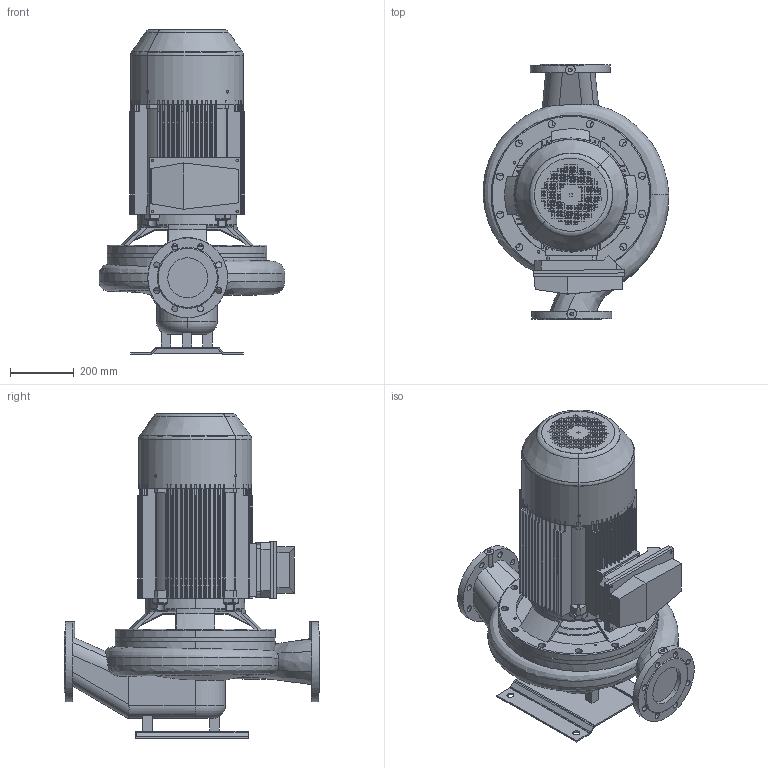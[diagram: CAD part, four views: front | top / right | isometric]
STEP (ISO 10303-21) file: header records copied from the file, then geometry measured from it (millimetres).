
FILE_DESCRIPTION(('STEP AP214'),'1');
FILE_NAME('export.stp','2018-05-29T08:01:12',(' '),(' '),'Spatial InterOp 3D',' ',' ');
FILE_SCHEMA(('AUTOMOTIVE_DESIGN { 1 0 10303 214 1 1 1 1 }'));
Length unit declared in the file: millimetre
Products named in the file (14): W_L125S4220_KP187; V_TLL125SAL1250; V_PPL125S; P100496; P100495; P100342; R200359; R200119; V_MKP187K2F41; R200132; V_TUULSUOJA_KP187; R200138; R200137; R200069
Assembly tree (14 placements, depth 4):
  W_L125S4220_KP187
    V_TLL125SAL1250
    V_PPL125S
    P100496
      P100495  x2
      P100342
    V_MKP187K2F41
      R200359
        R200119
      R200132
      V_TUULSUOJA_KP187
      R200138
      R200137
      R200069
Bounding box: 581.06 x 801.06 x 1017 mm (x, y, z)
Volume: 49355993.6 mm3; surface area: 5414010.2 mm2
Topology: 11 solids, 11 shells, 2324 faces, 6773 edges, 4461 vertices
Faces by surface type: plane 1244, cylinder 861, torus 90, bspline 69, cone 52, sphere 8
Entity records: 108555 total; most frequent: CARTESIAN_POINT 22796, ORIENTED_EDGE 13482, DIRECTION 12985, EDGE_CURVE 6741, VERTEX_POINT 4453, LINE 4345, VECTOR 4345, AXIS2_PLACEMENT_3D 4320
